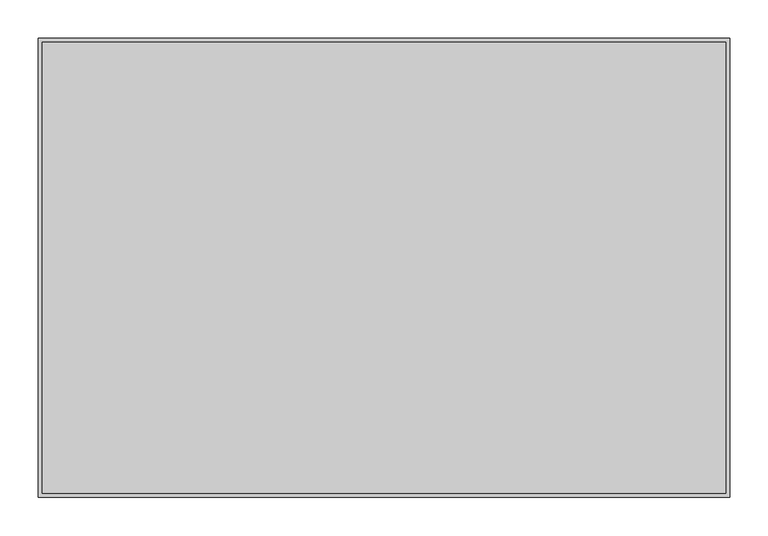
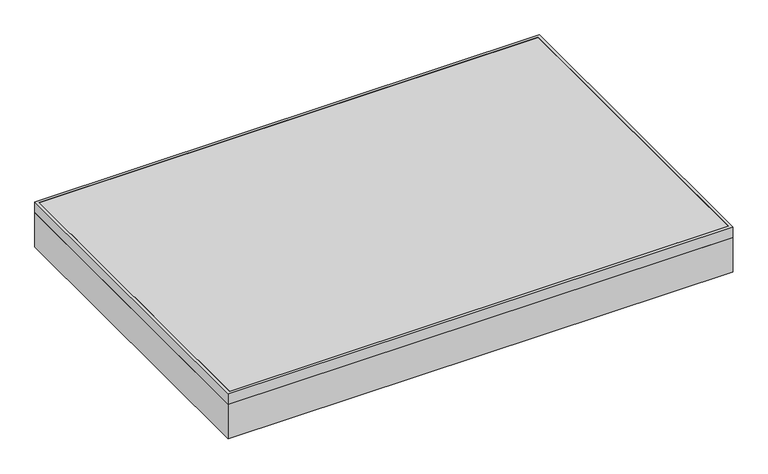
"""IFC4 building model written with IfcOpenShell, lengths in millimetres: proxy geometry, 12308770_UA_DA6698D_EDST : 28669855_UA_12308770_DA6698D_EDST."""

from ifc_helpers import new_model, si_unit, point, frame, frame_2d, origin, origin_with_axes, place, context, project, spatial, polyline, circle_curve, trimmed, segment, composite_curve, outline, extrude, faceted_brep, source, transform, mapped, element, save


def specialty_equipment_49d794b4(model_context):
    return source(origin(), model_context, "Body", "SolidModel", [
        extrude(outline(polyline([(102.6666667, 256.0), (102.6666667, -256.0), (-102.6666667, -256.0), (-102.6666667, 256.0), (102.6666667, 256.0)])), frame((0.0, 0.0, 7.5), z_axis=(0.0, 0.0, 1.0), x_axis=(1.0, 0.0, 0.0)), (0.0, 0.0, 1.0), 6.0),
        extrude(outline(polyline([(-120.6666667, 256.0), (-120.6666667, -256.0), (-326.0, -256.0), (-326.0, 256.0), (-120.6666667, 256.0)])), frame((0.0, 0.0, 7.5), z_axis=(0.0, 0.0, 1.0), x_axis=(1.0, 0.0, 0.0)), (0.0, 0.0, 1.0), 6.0),
        extrude(outline(polyline([(335.0, 265.0), (335.0, -265.0), (111.6666667, -265.0), (111.6666667, 265.0), (335.0, 265.0)]), holes=[polyline([(326.0, 256.0), (120.6666667, 256.0), (120.6666667, -256.0), (326.0, -256.0), (326.0, 256.0)])]), frame((0.0, 0.0, 6.0), z_axis=(0.0, 0.0, 1.0), x_axis=(1.0, 0.0, 0.0)), (0.0, 0.0, 1.0), 9.0),
        extrude(outline(polyline([(111.6666667, 265.0), (111.6666667, -265.0), (-111.6666667, -265.0), (-111.6666667, 265.0), (111.6666667, 265.0)]), holes=[polyline([(102.6666667, 256.0), (-102.6666667, 256.0), (-102.6666667, -256.0), (102.6666667, -256.0), (102.6666667, 256.0)])]), frame((0.0, 0.0, 6.0), z_axis=(0.0, 0.0, 1.0), x_axis=(1.0, 0.0, 0.0)), (0.0, 0.0, 1.0), 9.0),
        extrude(outline(polyline([(-111.6666667, 265.0), (-111.6666667, -265.0), (-335.0, -265.0), (-335.0, 265.0), (-111.6666667, 265.0)]), holes=[polyline([(-120.6666667, 256.0), (-326.0, 256.0), (-326.0, -256.0), (-120.6666667, -256.0), (-120.6666667, 256.0)])]), frame((0.0, 0.0, 6.0), z_axis=(0.0, 0.0, 1.0), x_axis=(1.0, 0.0, 0.0)), (0.0, 0.0, 1.0), 9.0),
        extrude(outline(polyline([(239.8333333, -213.0), (239.8333333, -256.0), (206.8333333, -256.0), (206.8333333, -213.0), (239.8333333, -213.0)]), holes=[polyline([(213.8333333, -249.0), (232.8333333, -249.0), (232.8333333, -220.0), (213.8333333, -220.0), (213.8333333, -249.0)])]), frame((0.0, 0.0, 13.5), z_axis=(0.0, 0.0, 1.0), x_axis=(1.0, 0.0, 0.0)), (0.0, 0.0, 1.0), 1.5),
        extrude(outline(polyline([(16.5, -213.0), (16.5, -256.0), (-16.5, -256.0), (-16.5, -213.0), (16.5, -213.0)]), holes=[polyline([(-9.5, -220.0), (-9.5, -249.0), (9.5, -249.0), (9.5, -220.0), (-9.5, -220.0)])]), frame((0.0, 0.0, 13.5), z_axis=(0.0, 0.0, 1.0), x_axis=(1.0, 0.0, 0.0)), (0.0, 0.0, 1.0), 1.5),
        extrude(outline(polyline([(-206.8333333, -213.0), (-206.8333333, -256.0), (-239.8333333, -256.0), (-239.8333333, -213.0), (-206.8333333, -213.0)]), holes=[polyline([(-213.8333333, -220.0), (-232.8333333, -220.0), (-232.8333333, -249.0), (-213.8333333, -249.0), (-213.8333333, -220.0)])]), frame((0.0, 0.0, 13.5), z_axis=(0.0, 0.0, 1.0), x_axis=(1.0, 0.0, 0.0)), (0.0, 0.0, 1.0), 1.5),
        extrude(outline(polyline([(-449.0, 298.0), (449.0, 298.0), (449.0, -298.0), (-449.0, -298.0), (-449.0, 298.0)]), holes=[polyline([(-444.0, 293.0), (-444.0, -293.0), (444.0, -293.0), (444.0, 293.0), (-444.0, 293.0)])]), frame((0.0, 0.0, 65.0), z_axis=(0.0, 0.0, 1.0), x_axis=(1.0, 0.0, 0.0)), (0.0, 0.0, 1.0), 20.0),
        extrude(outline(polyline([(449.0, 298.0), (449.0, -298.0), (-449.0, -298.0), (-449.0, 298.0), (449.0, 298.0)]), holes=[polyline([(444.0, 293.0), (-444.0, 293.0), (-444.0, -293.0), (444.0, -293.0), (444.0, 293.0)])]), origin_with_axes(), (0.0, 0.0, 1.0), 65.0),
        faceted_brep([(416.0, 265.0, 19.0), (416.0, -265.0, 19.0), (-416.0, -265.0, 19.0), (-416.0, 265.0, 19.0), (-416.0, 265.0, 0.0), (416.0, 265.0, 0.0), (-416.0, -265.0, 0.0), (416.0, -265.0, 0.0), (444.0, 293.0, 85.0), (-444.0, 293.0, 85.0), (-444.0, -293.0, 85.0), (444.0, -293.0, 85.0), (444.0, 293.0, 0.0), (444.0, -293.0, 0.0), (-444.0, -293.0, 0.0), (-444.0, 293.0, 0.0)], [[[0, 1, 2, 3]], [[0, 3, 4, 5]], [[3, 2, 6, 4]], [[2, 1, 7, 6]], [[1, 0, 5, 7]], [[8, 9, 10, 11]], [[12, 13, 14, 15], [5, 4, 6, 7]], [[9, 8, 12, 15]], [[10, 9, 15, 14]], [[11, 10, 14, 13]], [[8, 11, 13, 12]]]),
        extrude(outline(composite_curve([segment(polyline([(19.0, -416.0), (2.0, -416.0), (18.4833395, -354.4833395), (2.5, -338.5)]), True, "CONTINUOUS"), segment(trimmed(circle_curve(frame_2d((4.125934, -337.1254003)), 2.1291279), [point((2.5, -338.5))], [point((4.0, -335.0))], False, "CARTESIAN"), True, "CONTINUOUS"), segment(polyline([(4.0, -335.0), (19.0, -335.0), (19.0, -416.0)]), True, "CONTINUOUS")], self_intersect=False)), frame((0.0, -265.0, 0.0), z_axis=(0.0, 1.0, 0.0), x_axis=(0.0, 0.0, 1.0)), (0.0, 0.0, 1.0), 530.0),
        extrude(outline(composite_curve([segment(polyline([(19.0, 416.0), (19.0, 335.0), (4.0, 335.0)]), True, "CONTINUOUS"), segment(trimmed(circle_curve(frame_2d((4.125934, 337.1254003)), 2.1291279), [point((4.0, 335.0))], [point((2.5, 338.5))], False, "CARTESIAN"), True, "CONTINUOUS"), segment(polyline([(2.5, 338.5), (18.4833395, 354.4833395), (2.0, 416.0), (19.0, 416.0)]), True, "CONTINUOUS")], self_intersect=False)), frame((0.0, -265.0, 0.0), z_axis=(0.0, 1.0, 0.0), x_axis=(0.0, 0.0, 1.0)), (0.0, 0.0, 1.0), 530.0),
    ])


if __name__ == "__main__":
    model = new_model("IFC4")
    model_context = context("Model", 3, world=origin())
    ifc_project = project(units=[si_unit("LENGTHUNIT", "METRE", prefix="MILLI")], contexts=[model_context])
    site = spatial("IfcSite", under=ifc_project)
    building = spatial("IfcBuilding", under=site)
    placement = place(None, origin())
    specialty_equipment_shape = specialty_equipment_49d794b4(model_context)
    element("IfcBuildingElementProxy", 1, Name="12308770_UA_DA6698D_EDST : 28669855_UA_12308770_DA6698D_EDST", ObjectType="12308770_UA_DA6698D_EDST : 28669855_UA_12308770_DA6698D_EDST", at=placement, inside=building, context=model_context, shape_type="MappedRepresentation", body=[
        mapped(specialty_equipment_shape, transform((0.0, 0.0, 0.0), x_axis=(1.0, 0.0, 0.0), y_axis=(0.0, 1.0, 0.0), z_axis=(0.0, 0.0, 1.0))),
    ])
    save(model, "model.ifc")
